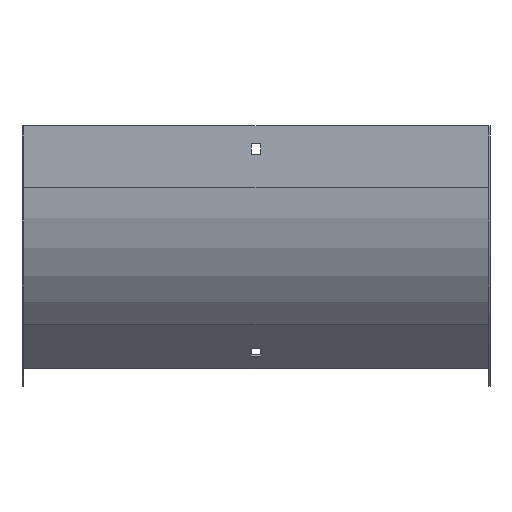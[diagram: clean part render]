
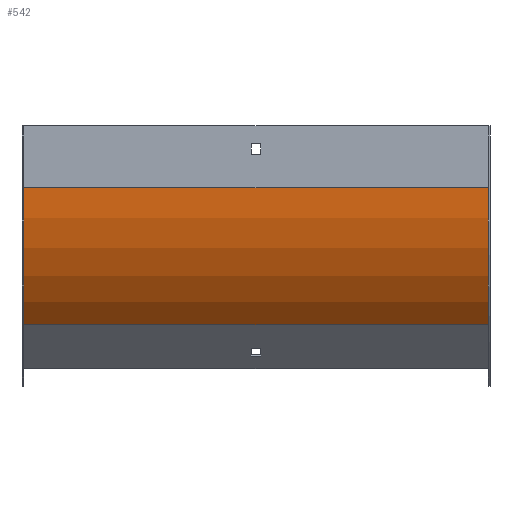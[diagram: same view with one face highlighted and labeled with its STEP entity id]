
A CAD part, front view. The second image highlights one B-rep face of the part: STEP entity #542.
In plain terms, the highlighted cylindrical face has radius 125 mm (diameter 250 mm), a partial arc.
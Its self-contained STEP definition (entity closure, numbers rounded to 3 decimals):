
#13 = EDGE_CURVE ( 'NONE', #843, #559, #764, .T. ) ;
#34 = ORIENTED_EDGE ( 'NONE', *, *, #67, .T. ) ;
#49 = AXIS2_PLACEMENT_3D ( 'NONE', #664, #463, #198 ) ;
#67 = EDGE_CURVE ( 'NONE', #569, #765, #440, .T. ) ;
#73 = DIRECTION ( 'NONE',  ( 0., 0., -1. ) ) ;
#85 = FACE_OUTER_BOUND ( 'NONE', #426, .T. ) ;
#90 = DIRECTION ( 'NONE',  ( 0., 0., 1. ) ) ;
#131 = EDGE_CURVE ( 'NONE', #765, #559, #150, .T. ) ;
#132 = VECTOR ( 'NONE', #236, 1000. ) ;
#145 = DIRECTION ( 'NONE',  ( -1., 0., 0. ) ) ;
#150 = LINE ( 'NONE', #603, #734 ) ;
#160 = DIRECTION ( 'NONE',  ( -1., 0., 0. ) ) ;
#198 = DIRECTION ( 'NONE',  ( 0., 0., -1. ) ) ;
#212 = CARTESIAN_POINT ( 'NONE',  ( 150., 124., -40. ) ) ;
#218 = CYLINDRICAL_SURFACE ( 'NONE', #861, 125. ) ;
#236 = DIRECTION ( 'NONE',  ( -1., 0., 0. ) ) ;
#346 = ORIENTED_EDGE ( 'NONE', *, *, #766, .F. ) ;
#389 = CARTESIAN_POINT ( 'NONE',  ( -150., 35.612, -128.388 ) ) ;
#400 = ORIENTED_EDGE ( 'NONE', *, *, #13, .F. ) ;
#403 = DIRECTION ( 'NONE',  ( -1., 0., 0. ) ) ;
#426 = EDGE_LOOP ( 'NONE', ( #400, #346, #34, #533 ) ) ;
#440 = CIRCLE ( 'NONE', #467, 125. ) ;
#451 = CARTESIAN_POINT ( 'NONE',  ( 150., -1., -40. ) ) ;
#463 = DIRECTION ( 'NONE',  ( -1., 0., 0. ) ) ;
#467 = AXIS2_PLACEMENT_3D ( 'NONE', #212, #403, #73 ) ;
#483 = CARTESIAN_POINT ( 'NONE',  ( -150., -1., -40. ) ) ;
#533 = ORIENTED_EDGE ( 'NONE', *, *, #131, .T. ) ;
#542 = ADVANCED_FACE ( 'NONE', ( #85 ), #218, .T. ) ;
#547 = CARTESIAN_POINT ( 'NONE',  ( 150., 35.612, -128.388 ) ) ;
#559 = VERTEX_POINT ( 'NONE', #483 ) ;
#569 = VERTEX_POINT ( 'NONE', #547 ) ;
#603 = CARTESIAN_POINT ( 'NONE',  ( 151., -1., -40. ) ) ;
#664 = CARTESIAN_POINT ( 'NONE',  ( -150., 124., -40. ) ) ;
#734 = VECTOR ( 'NONE', #145, 1000. ) ;
#762 = CARTESIAN_POINT ( 'NONE',  ( 151., 124., -40. ) ) ;
#764 = CIRCLE ( 'NONE', #49, 125. ) ;
#765 = VERTEX_POINT ( 'NONE', #451 ) ;
#766 = EDGE_CURVE ( 'NONE', #569, #843, #844, .T. ) ;
#778 = CARTESIAN_POINT ( 'NONE',  ( 151., 35.612, -128.388 ) ) ;
#843 = VERTEX_POINT ( 'NONE', #389 ) ;
#844 = LINE ( 'NONE', #778, #132 ) ;
#861 = AXIS2_PLACEMENT_3D ( 'NONE', #762, #160, #90 ) ;
